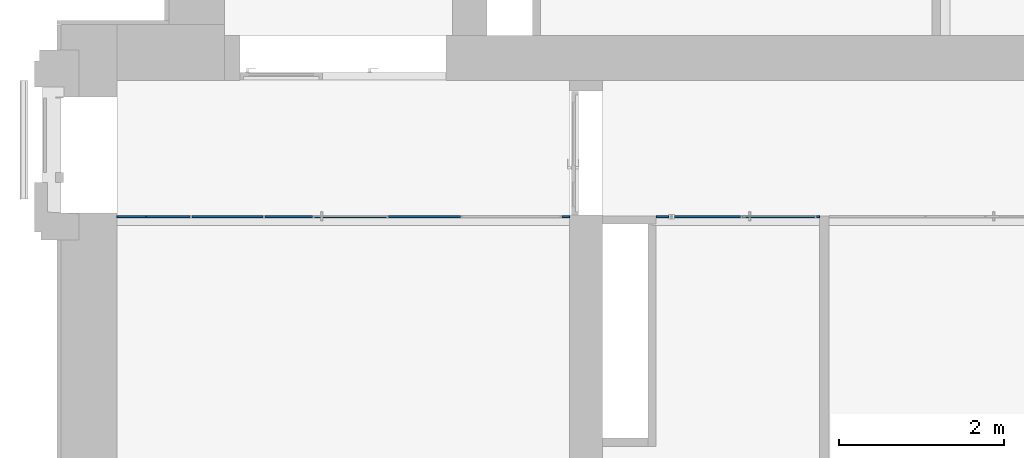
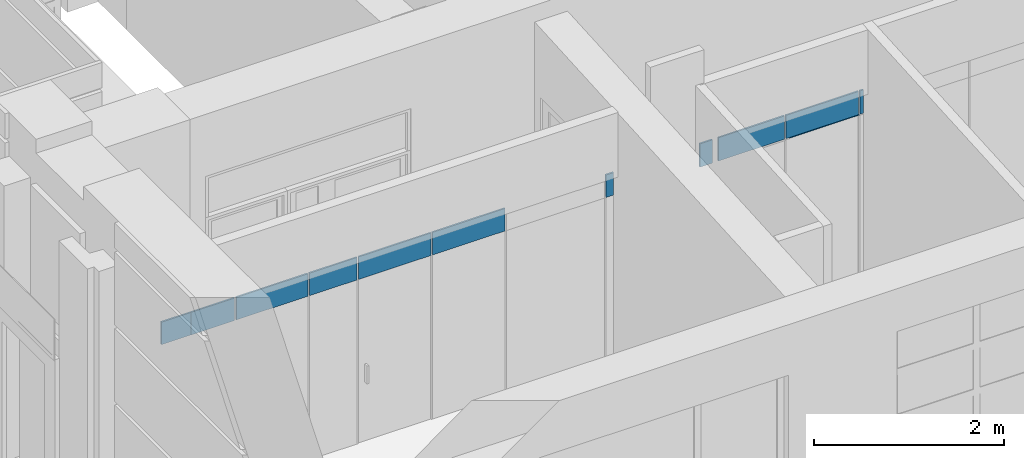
# One storey, part 19 of 46: 12 plates, 2 elements without a shape of their own.
"""IFC2X3 building model written with IfcOpenShell, lengths in millimetres."""

from ifc_helpers import new_model, entity, si_unit, converted_unit, derived_unit, direction, frame, frame_2d, origin, origin_2d_with_axis, place, context, subcontext, project, spatial, rectangle, extrude, source, transform, mapped, material, layer, layer_set, layer_usage, type_object, type_shapes, element, aggregate, save


model = new_model("IFC2X3")

# Units and contexts
model_context = context("Model", 3, precision=0.01, world=origin(), true_north=direction((6.12303176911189e-17, 1.0)))
body_context = subcontext(model_context, "Body", "Model", "MODEL_VIEW")
ifc_project = project(units=[si_unit("LENGTHUNIT", "METRE", prefix="MILLI"), si_unit("AREAUNIT", "SQUARE_METRE"), si_unit("VOLUMEUNIT", "CUBIC_METRE"), converted_unit("PLANEANGLEUNIT", "DEGREE", entity("IfcRatioMeasure", 0.0174532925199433), si_unit("PLANEANGLEUNIT", "RADIAN"), dimensions=[0, 0, 0, 0, 0, 0, 0]), si_unit("MASSUNIT", "GRAM", prefix="KILO"), derived_unit("MASSDENSITYUNIT", [(si_unit("MASSUNIT", "GRAM", prefix="KILO"), 1), (si_unit("LENGTHUNIT", "METRE"), -3)]), si_unit("TIMEUNIT", "SECOND"), si_unit("FREQUENCYUNIT", "HERTZ"), si_unit("THERMODYNAMICTEMPERATUREUNIT", "DEGREE_CELSIUS"), derived_unit("THERMALTRANSMITTANCEUNIT", [(si_unit("MASSUNIT", "GRAM", prefix="KILO"), 1), (si_unit("THERMODYNAMICTEMPERATUREUNIT", "KELVIN"), -1), (si_unit("TIMEUNIT", "SECOND"), -3)]), derived_unit("VOLUMETRICFLOWRATEUNIT", [(si_unit("LENGTHUNIT", "METRE"), 3), (si_unit("TIMEUNIT", "SECOND"), -1)]), si_unit("ELECTRICCURRENTUNIT", "AMPERE"), si_unit("ELECTRICVOLTAGEUNIT", "VOLT"), si_unit("POWERUNIT", "WATT"), si_unit("FORCEUNIT", "NEWTON", prefix="KILO"), si_unit("ILLUMINANCEUNIT", "LUX"), si_unit("LUMINOUSFLUXUNIT", "LUMEN"), si_unit("LUMINOUSINTENSITYUNIT", "CANDELA"), derived_unit("USERDEFINED", [(si_unit("MASSUNIT", "GRAM", prefix="KILO"), -1), (si_unit("LENGTHUNIT", "METRE"), -2), (si_unit("TIMEUNIT", "SECOND"), 3), (si_unit("LUMINOUSFLUXUNIT", "LUMEN"), 1)]), derived_unit("LINEARVELOCITYUNIT", [(si_unit("LENGTHUNIT", "METRE"), 1), (si_unit("TIMEUNIT", "SECOND"), -1)]), si_unit("PRESSUREUNIT", "PASCAL"), derived_unit("USERDEFINED", [(si_unit("LENGTHUNIT", "METRE"), -2), (si_unit("MASSUNIT", "GRAM", prefix="KILO"), 1), (si_unit("TIMEUNIT", "SECOND"), -2)])], contexts=[model_context])

# Site, building, storey
site_placement = place(None, frame((-151.875543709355, 2715.0, 0.0)))
site = spatial("IfcSite", under=ifc_project, at=site_placement, Name="Surface", CompositionType="ELEMENT")
building_placement = place(site_placement, origin())
building = spatial("IfcBuilding", under=site, at=building_placement, CompositionType="ELEMENT")
storey_placement = place(building_placement, frame((0.0, 0.0, 10060.0)))
storey = spatial("IfcBuildingStorey", under=building, at=storey_placement, Name="4 korrus", CompositionType="ELEMENT", Elevation=10060.0000000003)

# Curtain wall, plates
curtain_wall_type_1 = type_object("IfcCurtainWallType", Name="Curtain Wall:Klaassein KLS-07", PredefinedType="NOTDEFINED")
curtain_wall_1_placement = place(storey_placement, frame((0.0, 0.0, -10060.0)))
curtain_wall_1 = element("IfcCurtainWall", 1, at=curtain_wall_1_placement, inside=storey, type_object=curtain_wall_type_1, Name="Curtain Wall:Klaassein KLS-07", ObjectType="Curtain Wall:Klaassein KLS-07")
ifc_material = material(Name="<Unnamed>")
ifc_layer = layer(ifc_material, 20.0)
ifc_layer_set = layer_set([ifc_layer], Name="Curtain Wall:Klaassein KLS-01")
ifc_layer_usage_1 = layer_usage(ifc_layer_set, "AXIS3", "POSITIVE", 0.0)
plate_type_1 = type_object("IfcPlateType", Name="Glazed", PredefinedType="CURTAIN_PANEL", material=ifc_layer_set)
shared_shape_1 = source(origin(), body_context, "Body", "SweptSolid", [
    extrude(rectangle(XDim=20.0, YDim=580.0, at=origin_2d_with_axis()), frame((0.0, 0.0, 0.0), z_axis=(0.0, 0.0, 1.0), x_axis=(0.0, 1.0, 0.0)), (0.0, 0.0, 1.0), 290.000000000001),
])
type_shapes(plate_type_1, [shared_shape_1])
plate_1_placement = place(curtain_wall_1_placement, frame((2549.87554580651, 4355.0449339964, 12170.0)))
plate_1 = element("IfcPlate", 2, at=plate_1_placement, type_object=plate_type_1, material=ifc_layer_usage_1, Name="System Panel:Glazed", ObjectType="Glazed", context=body_context, shape_type="MappedRepresentation", body=[
    mapped(shared_shape_1, transform((0.0, 0.0, 0.0), scale=1.0)),
])
ifc_layer_usage_2 = layer_usage(ifc_layer_set, "AXIS3", "POSITIVE", 0.0)
plate_type_2 = type_object("IfcPlateType", Name="Glazed", PredefinedType="CURTAIN_PANEL", material=ifc_layer_set)
shared_shape_2 = source(origin(), body_context, "Body", "SweptSolid", [
    extrude(rectangle(XDim=20.0, YDim=880.000000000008, at=origin_2d_with_axis()), frame((0.0, 0.0, 0.0), z_axis=(0.0, 0.0, 1.0), x_axis=(0.0, 1.0, 0.0)), (0.0, 0.0, 1.0), 290.0),
])
type_shapes(plate_type_2, [shared_shape_2])
plate_2_placement = place(curtain_wall_1_placement, frame((3299.87554580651, 4355.0449339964, 12170.0)))
plate_2 = element("IfcPlate", 3, at=plate_2_placement, type_object=plate_type_2, material=ifc_layer_usage_2, Name="System Panel:Glazed", ObjectType="Glazed", context=body_context, shape_type="MappedRepresentation", body=[
    mapped(shared_shape_2, transform((0.0, 0.0, 0.0), scale=1.0)),
])
ifc_layer_usage_3 = layer_usage(ifc_layer_set, "AXIS3", "POSITIVE", 0.0)
plate_3_placement = place(curtain_wall_1_placement, frame((4199.87554580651, 4355.04493399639, 12170.0)))
plate_3 = element("IfcPlate", 4, at=plate_3_placement, type_object=plate_type_2, material=ifc_layer_usage_3, Name="System Panel:Glazed", ObjectType="Glazed", context=body_context, shape_type="MappedRepresentation", body=[
    mapped(shared_shape_2, transform((0.0, 0.0, 0.0), scale=1.0)),
])
ifc_layer_usage_4 = layer_usage(ifc_layer_set, "AXIS3", "POSITIVE", 0.0)
plate_type_3 = type_object("IfcPlateType", Name="Glazed", PredefinedType="CURTAIN_PANEL", material=ifc_layer_set)
shared_shape_3 = source(origin(), body_context, "Body", "SweptSolid", [
    extrude(rectangle(XDim=20.0, YDim=357.617983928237, at=origin_2d_with_axis()), frame((0.0, 0.0, 0.0), z_axis=(0.0, 0.0, 1.0), x_axis=(0.0, 1.0, 0.0)), (0.0, 0.0, 1.0), 289.999999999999),
])
type_shapes(plate_type_3, [shared_shape_3])
plate_4_placement = place(curtain_wall_1_placement, frame((638.68453746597, 4355.04493399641, 12170.0)))
plate_4 = element("IfcPlate", 5, at=plate_4_placement, type_object=plate_type_3, material=ifc_layer_usage_4, Name="System Panel:Glazed", ObjectType="Glazed", context=body_context, shape_type="MappedRepresentation", body=[
    mapped(shared_shape_3, transform((0.0, 0.0, 0.0), scale=1.0)),
])
ifc_layer_usage_5 = layer_usage(ifc_layer_set, "AXIS3", "POSITIVE", 0.0)
plate_type_4 = type_object("IfcPlateType", Name="Glazed", PredefinedType="CURTAIN_PANEL", material=ifc_layer_set)
shared_shape_4 = source(origin(), body_context, "Body", "SweptSolid", [
    extrude(rectangle(XDim=20.0, YDim=532.382016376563, at=origin_2d_with_axis()), frame((0.0, 0.0, 0.0), z_axis=(0.0, 0.0, 1.0), x_axis=(0.0, 1.0, 0.0)), (0.0, 0.0, 1.0), 289.999999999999),
])
type_shapes(plate_type_4, [shared_shape_4])
plate_5_placement = place(curtain_wall_1_placement, frame((1083.68453761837, 4355.0449339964, 12170.0)))
plate_5 = element("IfcPlate", 6, at=plate_5_placement, type_object=plate_type_4, material=ifc_layer_usage_5, Name="System Panel:Glazed", ObjectType="Glazed", context=body_context, shape_type="MappedRepresentation", body=[
    mapped(shared_shape_4, transform((0.0, 0.0, 0.0), scale=1.0)),
])
ifc_layer_usage_6 = layer_usage(ifc_layer_set, "AXIS3", "POSITIVE", 0.0)
plate_type_5 = type_object("IfcPlateType", Name="Glazed", PredefinedType="CURTAIN_PANEL", material=ifc_layer_set)
shared_shape_5 = source(origin(), body_context, "Body", "SweptSolid", [
    extrude(rectangle(XDim=20.0, YDim=870.0, at=origin_2d_with_axis()), frame((0.0, 0.0, 0.0), z_axis=(0.0, 0.0, 1.0), x_axis=(0.0, 1.0, 0.0)), (0.0, 0.0, 1.0), 289.999999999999),
])
type_shapes(plate_type_5, [shared_shape_5])
plate_6_placement = place(curtain_wall_1_placement, frame((1804.87554580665, 4355.0449339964, 12170.0)))
plate_6 = element("IfcPlate", 7, at=plate_6_placement, type_object=plate_type_5, material=ifc_layer_usage_6, Name="System Panel:Glazed", ObjectType="Glazed", context=body_context, shape_type="MappedRepresentation", body=[
    mapped(shared_shape_5, transform((0.0, 0.0, 0.0), scale=1.0)),
])
ifc_layer_usage_7 = layer_usage(ifc_layer_set, "AXIS3", "POSITIVE", 0.0)
plate_type_6 = type_object("IfcPlateType", Name="Glazed", PredefinedType="CURTAIN_PANEL", material=ifc_layer_set)
shared_shape_6 = source(origin(), body_context, "Body", "SweptSolid", [
    extrude(rectangle(XDim=20.0, YDim=92.6179836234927, at=origin_2d_with_axis()), frame((0.0, 0.0, 0.0), z_axis=(0.0, 0.0, 1.0), x_axis=(0.0, 1.0, 0.0)), (0.0, 0.0, 1.0), 290.000000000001),
])
type_shapes(plate_type_6, [shared_shape_6])
plate_7_placement = place(curtain_wall_1_placement, frame((5916.1845376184, 4355.04493399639, 12170.0)))
plate_7 = element("IfcPlate", 8, at=plate_7_placement, type_object=plate_type_6, material=ifc_layer_usage_7, Name="System Panel:Glazed", ObjectType="Glazed", context=body_context, shape_type="MappedRepresentation", body=[
    mapped(shared_shape_6, transform((0.0, 0.0, 0.0), scale=1.0)),
])
aggregate(curtain_wall_1, [plate_4, plate_5, plate_6, plate_1, plate_2, plate_3, plate_7])

curtain_wall_type_2 = type_object("IfcCurtainWallType", Name="Curtain Wall:Klaassein KLS-24", PredefinedType="NOTDEFINED")
curtain_wall_2_placement = place(storey_placement, frame((0.0, 0.0, -10060.0)))
curtain_wall_2 = element("IfcCurtainWall", 9, at=curtain_wall_2_placement, inside=storey, type_object=curtain_wall_type_2, Name="Curtain Wall:Klaassein KLS-24", ObjectType="Curtain Wall:Klaassein KLS-24")
ifc_layer_usage_8 = layer_usage(ifc_layer_set, "AXIS3", "POSITIVE", 0.0)
plate_type_7 = type_object("IfcPlateType", Name="Glazed", PredefinedType="CURTAIN_PANEL", material=ifc_layer_set)
shared_shape_7 = source(origin(), body_context, "Body", "SweptSolid", [
    extrude(rectangle(XDim=20.0, YDim=850.000000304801, at=origin_2d_with_axis()), frame((0.0, 0.0, 0.0), z_axis=(0.0, 0.0, 1.0), x_axis=(0.0, 1.0, 0.0)), (0.0, 0.0, 1.0), 9.99999999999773),
])
type_shapes(plate_type_7, [shared_shape_7])
plate_8_placement = place(curtain_wall_2_placement, frame((8526.56472625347, 4355.0449339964, 12150.0), z_axis=(0.0, 0.0, 1.0), x_axis=(-1.0, 0.0, 0.0)))
plate_8 = element("IfcPlate", 10, at=plate_8_placement, type_object=plate_type_7, material=ifc_layer_usage_8, Name="System Panel:Glazed", ObjectType="Glazed", context=body_context, shape_type="MappedRepresentation", body=[
    mapped(shared_shape_7, transform((0.0, 0.0, 0.0), scale=1.0)),
])
ifc_layer_usage_9 = layer_usage(ifc_layer_set, "AXIS3", "POSITIVE", 0.0)
plate_type_8 = type_object("IfcPlateType", Name="Glazed", PredefinedType="CURTAIN_PANEL", material=ifc_layer_set)
shared_shape_8 = source(origin(), body_context, "Body", "SweptSolid", [
    extrude(rectangle(XDim=20.0, YDim=39.9999999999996, at=origin_2d_with_axis()), frame((0.0, 0.0, 0.0), z_axis=(0.0, 0.0, 1.0), x_axis=(0.0, 1.0, 0.0)), (0.0, 0.0, 1.0), 299.999999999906),
])
type_shapes(plate_type_8, [shared_shape_8])
plate_9_placement = place(curtain_wall_2_placement, frame((8981.56472640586, 4355.0449339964, 12160.0), z_axis=(0.0, 0.0, 1.0), x_axis=(-1.0, 0.0, 0.0)))
plate_9 = element("IfcPlate", 11, at=plate_9_placement, type_object=plate_type_8, material=ifc_layer_usage_9, Name="System Panel:Glazed", ObjectType="Glazed", context=body_context, shape_type="MappedRepresentation", body=[
    mapped(shared_shape_8, transform((0.0, 0.0, 0.0), scale=1.0)),
])
ifc_layer_usage_10 = layer_usage(ifc_layer_set, "AXIS3", "POSITIVE", 0.0)
plate_type_9 = type_object("IfcPlateType", Name="Glazed", PredefinedType="CURTAIN_PANEL", material=ifc_layer_set)
shared_shape_9 = source(origin(), body_context, "Body", "SweptSolid", [
    extrude(rectangle(XDim=299.999999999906, YDim=880.0, at=frame_2d((0.0, -133.333333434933), x_axis=(1.0, 0.0))), frame((133.333333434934, -10.0, 150.0), z_axis=(0.0, 1.0, 0.0), x_axis=(0.0, 0.0, 1.0)), (0.0, 0.0, 1.0), 20.0),
])
type_shapes(plate_type_9, [shared_shape_9])
plate_10_placement = place(curtain_wall_2_placement, frame((8501.56472640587, 4355.0449339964, 12160.0), z_axis=(0.0, 0.0, 1.0), x_axis=(-1.0, 0.0, 0.0)))
plate_10 = element("IfcPlate", 12, at=plate_10_placement, type_object=plate_type_9, material=ifc_layer_usage_10, Name="System Panel:Glazed", ObjectType="Glazed", context=body_context, shape_type="MappedRepresentation", body=[
    mapped(shared_shape_9, transform((0.0, 0.0, 0.0), scale=1.0)),
])
ifc_layer_usage_11 = layer_usage(ifc_layer_set, "AXIS3", "POSITIVE", 0.0)
plate_type_10 = type_object("IfcPlateType", Name="Glazed", PredefinedType="CURTAIN_PANEL", material=ifc_layer_set)
shared_shape_10 = source(origin(), body_context, "Body", "SweptSolid", [
    extrude(rectangle(XDim=20.0, YDim=805.0000003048, at=origin_2d_with_axis()), frame((0.0, 0.0, 0.0), z_axis=(0.0, 0.0, 1.0), x_axis=(0.0, 1.0, 0.0)), (0.0, 0.0, 1.0), 299.999999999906),
])
type_shapes(plate_type_10, [shared_shape_10])
plate_11_placement = place(curtain_wall_2_placement, frame((7639.06472625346, 4355.0449339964, 12160.0), z_axis=(0.0, 0.0, 1.0), x_axis=(-1.0, 0.0, 0.0)))
plate_11 = element("IfcPlate", 13, at=plate_11_placement, type_object=plate_type_10, material=ifc_layer_usage_11, Name="System Panel:Glazed", ObjectType="Glazed", context=body_context, shape_type="MappedRepresentation", body=[
    mapped(shared_shape_10, transform((0.0, 0.0, 0.0), scale=1.0)),
])
ifc_layer_usage_12 = layer_usage(ifc_layer_set, "AXIS3", "POSITIVE", 0.0)
plate_type_11 = type_object("IfcPlateType", Name="Glazed", PredefinedType="CURTAIN_PANEL", material=ifc_layer_set)
shared_shape_11 = source(origin(), body_context, "Body", "SweptSolid", [
    extrude(rectangle(XDim=20.0, YDim=154.071196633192, at=origin_2d_with_axis()), frame((0.0, 0.0, 0.0), z_axis=(0.0, 0.0, 1.0), x_axis=(0.0, 1.0, 0.0)), (0.0, 0.0, 1.0), 299.999999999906),
])
type_shapes(plate_type_11, [shared_shape_11])
plate_12_placement = place(curtain_wall_2_placement, frame((7089.52912778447, 4355.04493399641, 12160.0), z_axis=(0.0, 0.0, 1.0), x_axis=(-1.0, 0.0, 0.0)))
plate_12 = element("IfcPlate", 14, at=plate_12_placement, type_object=plate_type_11, material=ifc_layer_usage_12, Name="System Panel:Glazed", ObjectType="Glazed", context=body_context, shape_type="MappedRepresentation", body=[
    mapped(shared_shape_11, transform((0.0, 0.0, 0.0), scale=1.0)),
])
aggregate(curtain_wall_2, [plate_8, plate_9, plate_10, plate_11, plate_12])

save(model, "model.ifc")
